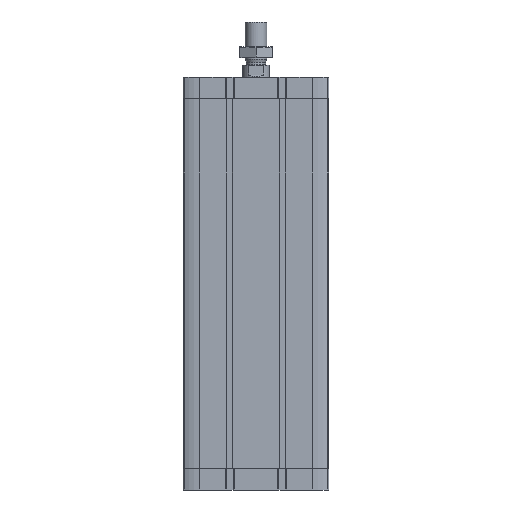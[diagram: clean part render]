
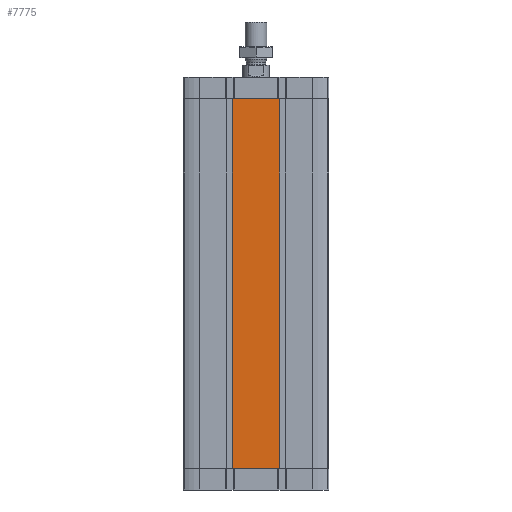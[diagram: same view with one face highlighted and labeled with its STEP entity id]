
A CAD part, front view. The second image highlights one B-rep face of the part: STEP entity #7775.
In plain terms, the highlighted planar face has unit normal (0, -1, 0).
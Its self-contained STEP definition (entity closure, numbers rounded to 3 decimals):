
#106 = VERTEX_POINT ( 'NONE', #8372 ) ;
#337 = EDGE_CURVE ( 'NONE', #106, #11406, #2103, .T. ) ;
#477 = CARTESIAN_POINT ( 'NONE',  ( 21.3, -67., -361. ) ) ;
#800 = CARTESIAN_POINT ( 'NONE',  ( -21.3, -67., -20. ) ) ;
#1203 = VECTOR ( 'NONE', #15259, 1000. ) ;
#1365 = VERTEX_POINT ( 'NONE', #1931 ) ;
#1649 = LINE ( 'NONE', #4225, #17351 ) ;
#1667 = DIRECTION ( 'NONE',  ( 0., 0., 1. ) ) ;
#1931 = CARTESIAN_POINT ( 'NONE',  ( 20.687, -67., -361. ) ) ;
#1960 = VECTOR ( 'NONE', #16972, 1000. ) ;
#2061 = LINE ( 'NONE', #10509, #12169 ) ;
#2103 = LINE ( 'NONE', #3688, #12031 ) ;
#2208 = ORIENTED_EDGE ( 'NONE', *, *, #337, .F. ) ;
#2891 = LINE ( 'NONE', #16931, #16535 ) ;
#3465 = ORIENTED_EDGE ( 'NONE', *, *, #7352, .T. ) ;
#3491 = DIRECTION ( 'NONE',  ( 1., 0., 0. ) ) ;
#3601 = AXIS2_PLACEMENT_3D ( 'NONE', #16856, #4298, #13727 ) ;
#3688 = CARTESIAN_POINT ( 'NONE',  ( -67., -67., -20. ) ) ;
#3832 = EDGE_CURVE ( 'NONE', #9880, #106, #9593, .T. ) ;
#4225 = CARTESIAN_POINT ( 'NONE',  ( -67., -67., -361. ) ) ;
#4298 = DIRECTION ( 'NONE',  ( 0., -1., 0. ) ) ;
#5782 = EDGE_CURVE ( 'NONE', #13331, #1365, #15502, .T. ) ;
#6054 = CARTESIAN_POINT ( 'NONE',  ( -21.3, -67., -361. ) ) ;
#6509 = EDGE_CURVE ( 'NONE', #11114, #13331, #12321, .T. ) ;
#6813 = CARTESIAN_POINT ( 'NONE',  ( -21.3, -67., -361. ) ) ;
#7021 = EDGE_CURVE ( 'NONE', #11114, #13901, #12484, .T. ) ;
#7352 = EDGE_CURVE ( 'NONE', #1365, #8202, #1649, .T. ) ;
#7471 = ORIENTED_EDGE ( 'NONE', *, *, #17487, .T. ) ;
#7775 = ADVANCED_FACE ( 'NONE', ( #15384 ), #11152, .T. ) ;
#8202 = VERTEX_POINT ( 'NONE', #477 ) ;
#8372 = CARTESIAN_POINT ( 'NONE',  ( 20.687, -67., -20. ) ) ;
#8544 = CARTESIAN_POINT ( 'NONE',  ( -21.3, -67., -361. ) ) ;
#9059 = ORIENTED_EDGE ( 'NONE', *, *, #7021, .F. ) ;
#9593 = LINE ( 'NONE', #800, #16226 ) ;
#9880 = VERTEX_POINT ( 'NONE', #9905 ) ;
#9905 = CARTESIAN_POINT ( 'NONE',  ( -20.687, -67., -20. ) ) ;
#10288 = EDGE_CURVE ( 'NONE', #13901, #9880, #2061, .T. ) ;
#10388 = CARTESIAN_POINT ( 'NONE',  ( -21.3, -67., -20. ) ) ;
#10509 = CARTESIAN_POINT ( 'NONE',  ( -67., -67., -20. ) ) ;
#10863 = CARTESIAN_POINT ( 'NONE',  ( -67., -67., -361. ) ) ;
#11114 = VERTEX_POINT ( 'NONE', #6054 ) ;
#11152 = PLANE ( 'NONE',  #3601 ) ;
#11334 = DIRECTION ( 'NONE',  ( 0., 0., 1. ) ) ;
#11340 = ORIENTED_EDGE ( 'NONE', *, *, #5782, .T. ) ;
#11361 = DIRECTION ( 'NONE',  ( 1., 0., 0. ) ) ;
#11406 = VERTEX_POINT ( 'NONE', #11785 ) ;
#11785 = CARTESIAN_POINT ( 'NONE',  ( 21.3, -67., -20. ) ) ;
#12031 = VECTOR ( 'NONE', #3491, 1000. ) ;
#12165 = CARTESIAN_POINT ( 'NONE',  ( -20.687, -67., -361. ) ) ;
#12169 = VECTOR ( 'NONE', #16102, 1000. ) ;
#12321 = LINE ( 'NONE', #10863, #1203 ) ;
#12484 = LINE ( 'NONE', #8544, #17338 ) ;
#13089 = ORIENTED_EDGE ( 'NONE', *, *, #10288, .F. ) ;
#13331 = VERTEX_POINT ( 'NONE', #12165 ) ;
#13727 = DIRECTION ( 'NONE',  ( 0., 0., -1. ) ) ;
#13777 = DIRECTION ( 'NONE',  ( 1., 0., 0. ) ) ;
#13901 = VERTEX_POINT ( 'NONE', #10388 ) ;
#14853 = EDGE_LOOP ( 'NONE', ( #9059, #17169, #11340, #3465, #7471, #2208, #18080, #13089 ) ) ;
#15259 = DIRECTION ( 'NONE',  ( 1., 0., 0. ) ) ;
#15384 = FACE_OUTER_BOUND ( 'NONE', #14853, .T. ) ;
#15502 = LINE ( 'NONE', #6813, #1960 ) ;
#16102 = DIRECTION ( 'NONE',  ( 1., 0., 0. ) ) ;
#16226 = VECTOR ( 'NONE', #13777, 1000. ) ;
#16535 = VECTOR ( 'NONE', #11334, 1000. ) ;
#16856 = CARTESIAN_POINT ( 'NONE',  ( -67., -67., -361. ) ) ;
#16931 = CARTESIAN_POINT ( 'NONE',  ( 21.3, -67., -361. ) ) ;
#16972 = DIRECTION ( 'NONE',  ( 1., 0., 0. ) ) ;
#17169 = ORIENTED_EDGE ( 'NONE', *, *, #6509, .T. ) ;
#17338 = VECTOR ( 'NONE', #1667, 1000. ) ;
#17351 = VECTOR ( 'NONE', #11361, 1000. ) ;
#17487 = EDGE_CURVE ( 'NONE', #8202, #11406, #2891, .T. ) ;
#18080 = ORIENTED_EDGE ( 'NONE', *, *, #3832, .F. ) ;
